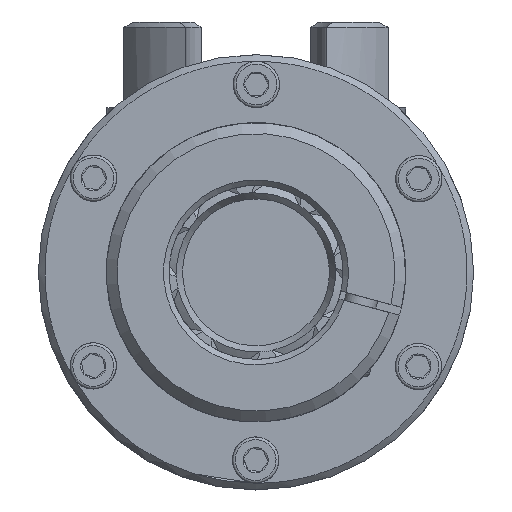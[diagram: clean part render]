
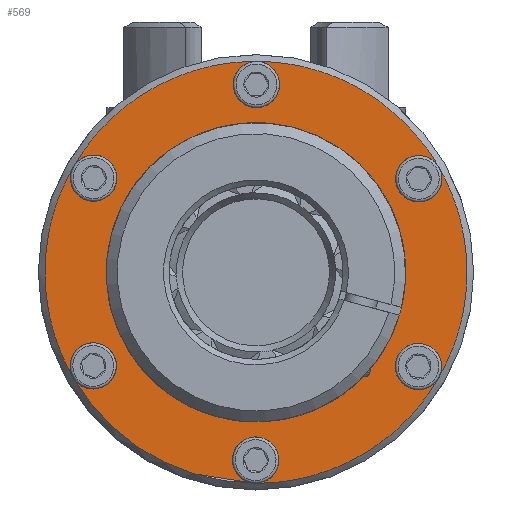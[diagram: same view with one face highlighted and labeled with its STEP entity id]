
A CAD part, left-side view. The second image highlights one B-rep face of the part: STEP entity #569.
In plain terms, the highlighted planar face has unit normal (-1, 0, 0).
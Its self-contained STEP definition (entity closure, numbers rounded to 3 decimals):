
#569 = ADVANCED_FACE( '', ( #1189, #1190 ), #1191, .F. );
#1189 = FACE_OUTER_BOUND( '', #2264, .T. );
#1190 = FACE_BOUND( '', #2265, .T. );
#1191 = PLANE( '', #2266 );
#2264 = EDGE_LOOP( '', ( #3554, #3555, #3556, #3557, #3558, #3559, #3560, #3561, #3562, #3563, #3564, #3565 ) );
#2265 = EDGE_LOOP( '', ( #3566 ) );
#2266 = AXIS2_PLACEMENT_3D( '', #3567, #3568, #3569 );
#3554 = ORIENTED_EDGE( '', *, *, #6177, .T. );
#3555 = ORIENTED_EDGE( '', *, *, #6170, .T. );
#3556 = ORIENTED_EDGE( '', *, *, #6178, .T. );
#3557 = ORIENTED_EDGE( '', *, *, #6169, .T. );
#3558 = ORIENTED_EDGE( '', *, *, #6175, .T. );
#3559 = ORIENTED_EDGE( '', *, *, #6174, .T. );
#3560 = ORIENTED_EDGE( '', *, *, #6179, .T. );
#3561 = ORIENTED_EDGE( '', *, *, #6173, .T. );
#3562 = ORIENTED_EDGE( '', *, *, #6180, .T. );
#3563 = ORIENTED_EDGE( '', *, *, #6172, .T. );
#3564 = ORIENTED_EDGE( '', *, *, #6181, .T. );
#3565 = ORIENTED_EDGE( '', *, *, #6171, .T. );
#3566 = ORIENTED_EDGE( '', *, *, #6182, .F. );
#3567 = CARTESIAN_POINT( '', ( -13.499, 40., 0. ) );
#3568 = DIRECTION( '', ( 1., 0., 0. ) );
#3569 = DIRECTION( '', ( 0., 1., 0. ) );
#6169 = EDGE_CURVE( '', #7085, #7086, #7087, .F. );
#6170 = EDGE_CURVE( '', #7088, #7085, #7089, .F. );
#6171 = EDGE_CURVE( '', #7090, #7088, #7091, .F. );
#6172 = EDGE_CURVE( '', #7092, #7090, #7093, .F. );
#6173 = EDGE_CURVE( '', #7094, #7092, #7095, .F. );
#6174 = EDGE_CURVE( '', #7086, #7094, #7096, .F. );
#6175 = EDGE_CURVE( '', #7086, #7086, #7097, .T. );
#6177 = EDGE_CURVE( '', #7088, #7088, #7100, .T. );
#6178 = EDGE_CURVE( '', #7085, #7085, #7101, .T. );
#6179 = EDGE_CURVE( '', #7094, #7094, #7102, .T. );
#6180 = EDGE_CURVE( '', #7092, #7092, #7103, .T. );
#6181 = EDGE_CURVE( '', #7090, #7090, #7104, .T. );
#6182 = EDGE_CURVE( '', #7105, #7105, #7106, .F. );
#7085 = VERTEX_POINT( '', #8765 );
#7086 = VERTEX_POINT( '', #8766 );
#7087 = CIRCLE( '', #8767, 38.75 );
#7088 = VERTEX_POINT( '', #8768 );
#7089 = CIRCLE( '', #8769, 38.75 );
#7090 = VERTEX_POINT( '', #8770 );
#7091 = CIRCLE( '', #8771, 38.75 );
#7092 = VERTEX_POINT( '', #8772 );
#7093 = CIRCLE( '', #8773, 38.75 );
#7094 = VERTEX_POINT( '', #8774 );
#7095 = CIRCLE( '', #8775, 38.75 );
#7096 = CIRCLE( '', #8776, 38.75 );
#7097 = CIRCLE( '', #8777, 4.25 );
#7100 = CIRCLE( '', #8780, 4.25 );
#7101 = CIRCLE( '', #8781, 4.25 );
#7102 = CIRCLE( '', #8782, 4.25 );
#7103 = CIRCLE( '', #8783, 4.25 );
#7104 = CIRCLE( '', #8784, 4.25 );
#7105 = VERTEX_POINT( '', #8785 );
#7106 = CIRCLE( '', #8786, 27.5 );
#8765 = CARTESIAN_POINT( '', ( -13.499, 33.558, 19.375 ) );
#8766 = CARTESIAN_POINT( '', ( -13.499, 33.558, -19.375 ) );
#8767 = AXIS2_PLACEMENT_3D( '', #11286, #11287, #11288 );
#8768 = CARTESIAN_POINT( '', ( -13.499, 0., 38.75 ) );
#8769 = AXIS2_PLACEMENT_3D( '', #11289, #11290, #11291 );
#8770 = CARTESIAN_POINT( '', ( -13.499, -33.558, 19.375 ) );
#8771 = AXIS2_PLACEMENT_3D( '', #11292, #11293, #11294 );
#8772 = CARTESIAN_POINT( '', ( -13.499, -33.558, -19.375 ) );
#8773 = AXIS2_PLACEMENT_3D( '', #11295, #11296, #11297 );
#8774 = CARTESIAN_POINT( '', ( -13.499, 0., -38.75 ) );
#8775 = AXIS2_PLACEMENT_3D( '', #11298, #11299, #11300 );
#8776 = AXIS2_PLACEMENT_3D( '', #11301, #11302, #11303 );
#8777 = AXIS2_PLACEMENT_3D( '', #11304, #11305, #11306 );
#8780 = AXIS2_PLACEMENT_3D( '', #11310, #11311, #11312 );
#8781 = AXIS2_PLACEMENT_3D( '', #11313, #11314, #11315 );
#8782 = AXIS2_PLACEMENT_3D( '', #11316, #11317, #11318 );
#8783 = AXIS2_PLACEMENT_3D( '', #11319, #11320, #11321 );
#8784 = AXIS2_PLACEMENT_3D( '', #11322, #11323, #11324 );
#8785 = CARTESIAN_POINT( '', ( -13.499, 0., -27.5 ) );
#8786 = AXIS2_PLACEMENT_3D( '', #11325, #11326, #11327 );
#11286 = CARTESIAN_POINT( '', ( -13.499, 0., 0. ) );
#11287 = DIRECTION( '', ( 1., 0., 0. ) );
#11288 = DIRECTION( '', ( 0., 0., -1. ) );
#11289 = CARTESIAN_POINT( '', ( -13.499, 0., 0. ) );
#11290 = DIRECTION( '', ( 1., 0., 0. ) );
#11291 = DIRECTION( '', ( 0., 0., -1. ) );
#11292 = CARTESIAN_POINT( '', ( -13.499, 0., 0. ) );
#11293 = DIRECTION( '', ( 1., 0., 0. ) );
#11294 = DIRECTION( '', ( 0., 0., -1. ) );
#11295 = CARTESIAN_POINT( '', ( -13.499, 0., 0. ) );
#11296 = DIRECTION( '', ( 1., 0., 0. ) );
#11297 = DIRECTION( '', ( 0., 0., -1. ) );
#11298 = CARTESIAN_POINT( '', ( -13.499, 0., 0. ) );
#11299 = DIRECTION( '', ( 1., 0., 0. ) );
#11300 = DIRECTION( '', ( 0., 0., -1. ) );
#11301 = CARTESIAN_POINT( '', ( -13.499, 0., 0. ) );
#11302 = DIRECTION( '', ( 1., 0., 0. ) );
#11303 = DIRECTION( '', ( 0., 0., -1. ) );
#11304 = CARTESIAN_POINT( '', ( -13.499, 29.878, -17.25 ) );
#11305 = DIRECTION( '', ( 1., 0., 0. ) );
#11306 = DIRECTION( '', ( 0., 0., -1. ) );
#11310 = CARTESIAN_POINT( '', ( -13.499, 0., 34.5 ) );
#11311 = DIRECTION( '', ( 1., 0., 0. ) );
#11312 = DIRECTION( '', ( 0., 0., -1. ) );
#11313 = CARTESIAN_POINT( '', ( -13.499, 29.878, 17.25 ) );
#11314 = DIRECTION( '', ( 1., 0., 0. ) );
#11315 = DIRECTION( '', ( 0., 0., -1. ) );
#11316 = CARTESIAN_POINT( '', ( -13.499, 0., -34.5 ) );
#11317 = DIRECTION( '', ( 1., 0., 0. ) );
#11318 = DIRECTION( '', ( 0., 0., -1. ) );
#11319 = CARTESIAN_POINT( '', ( -13.499, -29.878, -17.25 ) );
#11320 = DIRECTION( '', ( 1., 0., 0. ) );
#11321 = DIRECTION( '', ( 0., 0., -1. ) );
#11322 = CARTESIAN_POINT( '', ( -13.499, -29.878, 17.25 ) );
#11323 = DIRECTION( '', ( 1., 0., 0. ) );
#11324 = DIRECTION( '', ( 0., 0., -1. ) );
#11325 = CARTESIAN_POINT( '', ( -13.499, 0., 0. ) );
#11326 = DIRECTION( '', ( 1., 0., 0. ) );
#11327 = DIRECTION( '', ( 0., 0., -1. ) );
